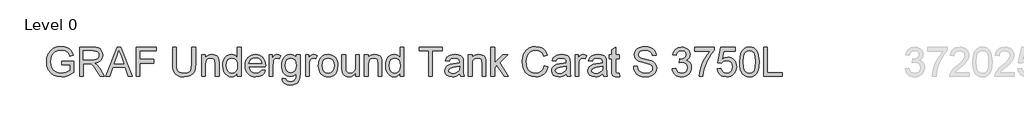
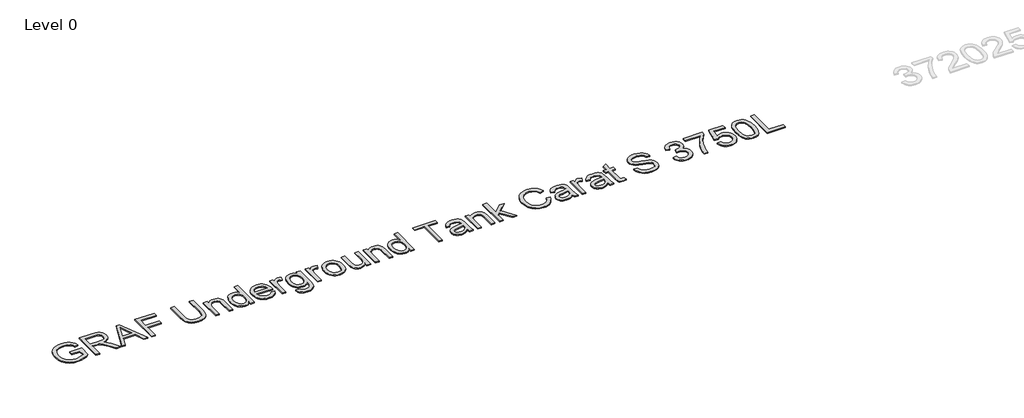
# One storey, part 16 of 20: 1 proxy.
"""IFC4 building model written with IfcOpenShell, lengths in millimetres."""

from ifc_helpers import new_model, si_unit, origin, origin_with_axes, place, context, project, spatial, polyline, outline, extrude, element, save

model = new_model("IFC4")

# Units and contexts
model_context = context("Model", 3, world=origin())
ifc_project = project(units=[si_unit("LENGTHUNIT", "METRE", prefix="MILLI")], contexts=[model_context])

# Site, building, storey
site = spatial("IfcSite", under=ifc_project)
building = spatial("IfcBuilding", under=site)
storey = spatial("IfcBuildingStorey", under=building, Name="Level 0", Elevation=0.0)

# Proxy
placement = place(None, origin())
element("IfcBuildingElementProxy", 1, Name="300mm Arial", ObjectType="300mm Arial", at=placement, inside=storey, context=model_context, shape_type="SweptSolid", body=[
    extrude(outline(polyline([(-14980.9940387, 5416.7454403), (-14980.9940387, 5454.4165566), (-14858.5629107, 5454.4165566), (-14858.5629107, 5341.7710897), (-14888.3153671, 5321.0777274), (-14919.0059225, 5306.2336889), (-14950.5610007, 5297.2941564), (-14982.9070251, 5294.3143123), (-15025.1674693, 5299.050793), (-15063.3628175, 5313.260235), (-15095.0926395, 5336.4459978), (-15117.9565055, 5368.1114405), (-15131.7796715, 5406.0952565), (-15136.3873935, 5448.2361391), (-15131.7980656, 5490.6805243), (-15118.0300819, 5530.1634594), (-15095.6536596, 5563.282036), (-15065.2390156, 5586.6333457), (-15028.1932987, 5600.4841028), (-14985.9236575, 5605.1010218), (-14954.8928112, 5602.4246803), (-14926.9889618, 5594.3956557), (-14903.4904994, 5581.5933623), (-14885.6758138, 5564.5972141), (-14872.4964413, 5542.5886738), (-14862.9039183, 5514.7492038), (-14897.6319786, 5504.9635427), (-14905.3850917, 5524.8199734), (-14914.8120678, 5539.8019677), (-14927.2832674, 5551.0959449), (-14944.169051, 5559.8883246), (-14964.3013932, 5565.5445103), (-14986.5122687, 5567.4299055), (-15012.5123287, 5565.3973575), (-15034.7415982, 5559.2997134), (-15053.1173039, 5549.9003284), (-15067.5566722, 5537.9625577), (-15086.9440533, 5508.9366683), (-15095.7732212, 5480.49939), (-15098.7162772, 5449.7812434), (-15095.175413, 5413.7563991), (-15084.5528204, 5384.1143073), (-15067.1703961, 5361.0665003), (-15043.3500369, 5344.8245102), (-15015.4737787, 5335.195199), (-14985.9236575, 5331.9854286), (-14959.831627, 5334.4042527), (-14934.3833899, 5341.6607251), (-14912.2828791, 5351.6579183), (-14896.234027, 5362.298905), (-14896.234027, 5416.7454403), (-14980.9940387, 5416.7454403)])), origin_with_axes(), (0.0, 0.0, 1.0), 10.0),
    extrude(outline(polyline([(-14797.3473467, 5299.0232018), (-14797.3473467, 5600.3921323), (-14667.4850024, 5600.3921323), (-14632.5821982, 5598.3595842), (-14607.1891434, 5592.2619402), (-14588.6294968, 5581.0047511), (-14574.2269167, 5563.4935682), (-14564.9838815, 5541.7793334), (-14561.9028698, 5517.912989), (-14567.0072325, 5488.2249119), (-14582.3203206, 5463.6136065), (-14593.9200997, 5453.5842236), (-14608.3019865, 5445.5689946), (-14645.4120827, 5435.5809984), (-14624.0013506, 5419.467767), (-14593.467145, 5380.6930048), (-14543.2144645, 5299.0232018), (-14586.9924219, 5299.0232018), (-14626.2086426, 5361.4895646), (-14654.5355562, 5402.8395009), (-14674.4379722, 5422.3740348), (-14692.3538253, 5429.5477337), (-14714.2060158, 5430.8721089), (-14759.6762304, 5430.8721089), (-14759.6762304, 5299.0232018), (-14797.3473467, 5299.0232018)]), holes=[polyline([(-14759.6762304, 5468.5432252), (-14675.3576771, 5468.5432252), (-14651.1418448, 5469.8767974), (-14632.3522719, 5473.8775141), (-14618.2072092, 5480.8120897), (-14607.9249074, 5490.9472387), (-14601.6617165, 5503.2069062), (-14599.5739861, 5516.5150374), (-14603.5563087, 5534.890743), (-14615.5032765, 5549.6979933), (-14636.058683, 5559.4652603), (-14665.8663217, 5562.721016), (-14759.6762304, 5562.721016), (-14759.6762304, 5468.5432252)])]), origin_with_axes(), (0.0, 0.0, 1.0), 10.0),
    extrude(outline(polyline([(-14531.0743586, 5299.0232018), (-14410.7769462, 5600.3921323), (-14378.6976362, 5600.3921323), (-14258.4002238, 5299.0232018), (-14298.2050557, 5299.0232018), (-14332.7123868, 5393.2009926), (-14456.835772, 5393.2009926), (-14491.2695268, 5299.0232018), (-14531.0743586, 5299.0232018)]), holes=[polyline([(-14443.003409, 5430.8721089), (-14346.4711735, 5430.8721089), (-14373.6208647, 5504.9635427), (-14394.7372912, 5562.721016), (-14413.499273, 5511.4382658), (-14443.003409, 5430.8721089)])]), origin_with_axes(), (0.0, 0.0, 1.0), 10.0),
    extrude(outline(polyline([(-14218.1539335, 5299.0232018), (-14218.1539335, 5600.3921323), (-14015.6716834, 5600.3921323), (-14015.6716834, 5562.721016), (-14180.4828172, 5562.721016), (-14180.4828172, 5473.2521147), (-14039.2161311, 5473.2521147), (-14039.2161311, 5435.5809984), (-14180.4828172, 5435.5809984), (-14180.4828172, 5299.0232018), (-14218.1539335, 5299.0232018)])), origin_with_axes(), (0.0, 0.0, 1.0), 10.0),
    extrude(outline(polyline([(-13648.3782994, 5600.3921323), (-13610.7071831, 5600.3921323), (-13610.7071831, 5426.5311014), (-13613.263963, 5385.8157615), (-13620.9343026, 5354.4630185), (-13635.2633063, 5330.2747773), (-13657.7960785, 5311.0529431), (-13688.5878015, 5298.49897), (-13727.6936576, 5294.3143123), (-13765.944188, 5297.956344), (-13796.5243789, 5308.8824393), (-13819.4434272, 5326.715519), (-13834.71053, 5351.0785041), (-13843.2913775, 5383.7556224), (-13846.15166, 5426.5311014), (-13846.15166, 5600.3921323), (-13808.4805437, 5600.3921323), (-13808.4805437, 5427.8554765), (-13806.6227396, 5394.0011359), (-13801.0493274, 5370.4290971), (-13790.9509666, 5354.1043335), (-13775.5183169, 5341.9918189), (-13755.3951718, 5334.4870262), (-13731.2253247, 5331.9854286), (-13692.9104149, 5336.9334414), (-13678.5676156, 5343.1184575), (-13667.4345868, 5351.7774799), (-13659.097461, 5363.954374), (-13653.1423712, 5380.6930048), (-13648.3782994, 5427.8554765), (-13648.3782994, 5600.3921323)])), origin_with_axes(), (0.0, 0.0, 1.0), 10.0),
    extrude(outline(polyline([(-13549.4916191, 5299.0232018), (-13549.4916191, 5520.3410101), (-13511.8205028, 5520.3410101), (-13511.8205028, 5489.4389225), (-13498.7331008, 5505.018725), (-13483.0153426, 5516.1471554), (-13464.6672281, 5522.8242136), (-13443.6887573, 5525.0498997), (-13425.1199136, 5523.2564749), (-13408.1145684, 5517.8762008), (-13393.9327174, 5509.5804618), (-13383.8343567, 5499.0406426), (-13372.5403794, 5471.3391284), (-13370.5538166, 5434.9188108), (-13370.5538166, 5299.0232018), (-13408.224933, 5299.0232018), (-13408.224933, 5429.8420393), (-13412.5659405, 5463.1721481), (-13418.5716141, 5473.0957649), (-13427.9066197, 5480.7936956), (-13439.8719816, 5485.7325114), (-13453.768724, 5487.3787834), (-13475.8324466, 5483.6815693), (-13494.6404136, 5472.5899271), (-13502.1567026, 5463.5354315), (-13507.5254805, 5451.1608009), (-13511.8205028, 5416.4511347), (-13511.8205028, 5299.0232018), (-13549.4916191, 5299.0232018)])), origin_with_axes(), (0.0, 0.0, 1.0), 10.0),
    extrude(outline(polyline([(-13182.1982351, 5299.0232018), (-13182.1982351, 5334.5606026), (-13193.4692197, 5316.9528506), (-13207.1222403, 5304.3758849), (-13223.1572968, 5296.8297054), (-13241.5743891, 5294.3143123), (-13265.9281772, 5297.956344), (-13288.2218261, 5308.8824393), (-13307.0941725, 5326.3292429), (-13321.1840529, 5349.5333998), (-13329.9580385, 5377.5568107), (-13332.8827003, 5409.4613768), (-13330.1879647, 5440.9704697), (-13322.1037579, 5469.426142), (-13308.6392769, 5493.209713), (-13289.8037187, 5510.7025018), (-13267.0226262, 5521.4630502), (-13241.7215419, 5525.0498997), (-13223.290654, 5522.4839227), (-13206.9934816, 5514.785992), (-13193.1795127, 5502.986177), (-13182.1982351, 5488.1145473), (-13182.1982351, 5600.3921323), (-13144.5271188, 5600.3921323), (-13144.5271188, 5299.0232018), (-13182.1982351, 5299.0232018)]), holes=[polyline([(-13295.211584, 5409.6085296), (-13290.962547, 5375.5334598), (-13278.2154359, 5351.2992333), (-13259.6925774, 5336.8138798), (-13238.1162984, 5331.9854286), (-13216.5492164, 5336.5931506), (-13198.4954075, 5350.4163165), (-13186.2725282, 5373.7124439), (-13182.1982351, 5406.73905), (-13186.3461046, 5442.8466678), (-13198.7897131, 5467.8810376), (-13217.3033745, 5482.5043469), (-13239.6614028, 5487.3787834), (-13261.458411, 5482.697485), (-13279.3190818, 5468.6535898), (-13291.2384585, 5444.529728), (-13295.211584, 5409.6085296)])]), origin_with_axes(), (0.0, 0.0, 1.0), 10.0),
    extrude(outline(polyline([(-12933.068548, 5364.9476554), (-12896.1331957, 5360.2387658), (-12909.4413268, 5332.4084929), (-12930.677315, 5311.6047661), (-12959.3629136, 5298.6369257), (-12995.019876, 5294.3143123), (-13018.3941782, 5296.1790141), (-13039.2208977, 5301.7731197), (-13057.5000343, 5311.0966291), (-13073.2315881, 5324.1495421), (-13085.8821303, 5340.5685754), (-13094.9182318, 5359.9904455), (-13100.3398927, 5382.4151523), (-13102.147113, 5407.842696), (-13100.3214986, 5434.1324631), (-13094.8446554, 5457.3044302), (-13085.7165834, 5477.3585975), (-13072.9372826, 5494.2949649), (-13057.2471155, 5507.7502488), (-13039.3864446, 5517.361166), (-13019.35527, 5523.1277162), (-12997.1535915, 5525.0498997), (-12975.6669838, 5523.1323148), (-12956.2359166, 5517.3795601), (-12938.8603901, 5507.7916356), (-12923.5404043, 5494.3685413), (-12911.0347157, 5477.4689621), (-12902.102081, 5457.451583), (-12896.7425002, 5434.3164041), (-12894.9559733, 5408.0634252), (-12895.1767025, 5397.9098821), (-13064.4759967, 5397.9098821), (-13057.9552883, 5369.7117272), (-13042.8077471, 5348.9815768), (-13020.9463596, 5336.2344656), (-12994.284112, 5331.9854286), (-12974.2345432, 5333.9535973), (-12957.3487597, 5339.8581033), (-12943.6267612, 5350.0668287), (-12933.068548, 5364.9476554)]), holes=[polyline([(-13064.4759967, 5435.5809984), (-12932.6270896, 5435.5809984), (-12937.7222552, 5455.4834144), (-12947.7102514, 5469.7204476), (-12969.6728065, 5482.9641994), (-12997.3007443, 5487.3787834), (-13022.6937991, 5483.8563132), (-13043.6906639, 5473.2889029), (-13058.2863821, 5456.8169866), (-13064.4759967, 5435.5809984)])]), origin_with_axes(), (0.0, 0.0, 1.0), 10.0),
    extrude(outline(polyline([(-12857.284857, 5299.0232018), (-12857.284857, 5520.3410101), (-12824.3226302, 5520.3410101), (-12824.3226302, 5487.5995125), (-12812.1457362, 5506.5822235), (-12800.9253353, 5517.7658362), (-12789.6681463, 5523.2288838), (-12777.3808876, 5525.0498997), (-12758.6189059, 5522.1436319), (-12739.5626185, 5513.4248286), (-12752.1441828, 5479.6532615), (-12765.3879346, 5485.4474029), (-12778.6316864, 5487.3787834), (-12789.8796784, 5485.5209793), (-12799.9320539, 5479.947567), (-12808.053049, 5471.081611), (-12813.5068996, 5459.3461753), (-12818.0870304, 5438.3033252), (-12819.6137407, 5415.3474887), (-12819.6137407, 5299.0232018), (-12857.284857, 5299.0232018)])), origin_with_axes(), (0.0, 0.0, 1.0), 10.0),
    extrude(outline(polyline([(-12725.4359499, 5280.1876437), (-12687.7648336, 5275.4787541), (-12683.6077671, 5263.7065303), (-12675.5511514, 5255.6131264), (-12659.7138315, 5249.3223443), (-12638.983681, 5247.2254169), (-12616.8739731, 5249.5982558), (-12600.4296479, 5256.7167724), (-12589.0253061, 5268.1211142), (-12582.0355482, 5283.3514288), (-12579.4603742, 5327.2765391), (-12591.9959532, 5314.915704), (-12605.9846661, 5306.0865361), (-12621.4265128, 5300.7890354), (-12638.3214935, 5299.0232018), (-12658.9757682, 5301.0787425), (-12677.1606351, 5307.2453644), (-12692.8760941, 5317.5230677), (-12706.1221452, 5331.9118522), (-12716.6320739, 5349.1747148), (-12724.1391659, 5368.0746523), (-12728.6434211, 5388.6116647), (-12730.1448394, 5410.785752), (-12727.4501038, 5441.2003959), (-12719.365897, 5469.1686246), (-12706.1773275, 5492.8694221), (-12688.1695038, 5510.4817726), (-12665.9586283, 5521.4078679), (-12640.1609034, 5525.0498997), (-12622.5439544, 5522.9897605), (-12606.5548832, 5516.809343), (-12592.1936898, 5506.5086471), (-12579.4603742, 5492.0876729), (-12579.4603742, 5520.3410101), (-12541.7892579, 5520.3410101), (-12541.7892579, 5329.2631018), (-12544.3644319, 5285.1448536), (-12552.0899538, 5256.091373), (-12565.398085, 5236.8235535), (-12584.7210868, 5222.0622884), (-12609.6358949, 5212.6812976), (-12639.719445, 5209.5543006), (-12674.7694021, 5213.9596875), (-12702.3697488, 5227.1758482), (-12712.7647144, 5237.0971657), (-12720.0740698, 5249.2395708), (-12724.297815, 5263.6030635), (-12725.4359499, 5280.1876437)]), holes=[polyline([(-12692.4737231, 5413.3609259), (-12688.4546123, 5378.8076095), (-12676.39728, 5355.0516297), (-12658.2698946, 5341.283646), (-12636.0406251, 5336.6943181), (-12613.9769024, 5341.2560549), (-12595.7575466, 5354.9412651), (-12583.5346673, 5378.3937423), (-12579.4603742, 5412.2572799), (-12583.654229, 5444.9160041), (-12596.2357932, 5468.4328606), (-12614.7218635, 5482.6423027), (-12636.6292363, 5487.3787834), (-12658.1411359, 5482.7158791), (-12676.1765508, 5468.7271662), (-12688.39943, 5445.5597976), (-12692.4737231, 5413.3609259)])]), origin_with_axes(), (0.0, 0.0, 1.0), 10.0),
    extrude(outline(polyline([(-12485.2825835, 5299.0232018), (-12485.2825835, 5520.3410101), (-12452.3203567, 5520.3410101), (-12452.3203567, 5487.5995125), (-12440.1434626, 5506.5822235), (-12428.9230618, 5517.7658362), (-12417.6658727, 5523.2288838), (-12405.3786141, 5525.0498997), (-12386.6166324, 5522.1436319), (-12367.560345, 5513.4248286), (-12380.1419092, 5479.6532615), (-12393.3856611, 5485.4474029), (-12406.6294129, 5487.3787834), (-12417.8774049, 5485.5209793), (-12427.9297804, 5479.947567), (-12436.0507755, 5471.081611), (-12441.504626, 5459.3461753), (-12446.0847569, 5438.3033252), (-12447.6114672, 5415.3474887), (-12447.6114672, 5299.0232018), (-12485.2825835, 5299.0232018)])), origin_with_axes(), (0.0, 0.0, 1.0), 10.0),
    extrude(outline(polyline([(-12353.4336764, 5409.682106), (-12351.3965298, 5438.3447119), (-12345.2850902, 5463.0433894), (-12335.0993575, 5483.7781383), (-12320.8393316, 5500.5489588), (-12306.4827368, 5511.2681204), (-12290.6362198, 5518.9246644), (-12273.2997808, 5523.5185909), (-12254.4734197, 5525.0498997), (-12233.6903862, 5523.1851978), (-12214.8985141, 5517.5910922), (-12198.0978032, 5508.2675829), (-12183.2882536, 5495.2146698), (-12171.2010308, 5478.8738115), (-12162.5673002, 5459.6864662), (-12157.3870619, 5437.6526339), (-12155.6603158, 5412.7723147), (-12158.7137363, 5374.7149223), (-12167.873998, 5345.7442152), (-12182.8743864, 5324.0483745), (-12203.448187, 5307.8155815), (-12227.8847485, 5297.6896296), (-12254.4734197, 5294.3143123), (-12275.5599558, 5296.1721164), (-12294.5265719, 5301.7455286), (-12311.373268, 5311.034549), (-12326.1000441, 5324.0391775), (-12338.0585082, 5340.538685), (-12346.6002683, 5360.3123422), (-12351.7253244, 5383.3601492), (-12353.4336764, 5409.682106)]), holes=[polyline([(-12315.7625601, 5409.7556824), (-12311.4031584, 5375.6622185), (-12298.3249535, 5351.3728097), (-12278.6432668, 5336.8322739), (-12254.4734197, 5331.9854286), (-12230.4139372, 5336.859865), (-12210.7690387, 5351.4831743), (-12197.6908337, 5376.0944798), (-12193.3314321, 5410.9329048), (-12197.7184249, 5444.0330873), (-12210.8794033, 5467.9914022), (-12230.5518929, 5482.5319381), (-12254.4734197, 5487.3787834), (-12278.6432668, 5482.5503322), (-12298.3249535, 5468.0649786), (-12311.4031584, 5443.8307522), (-12315.7625601, 5409.7556824)])]), origin_with_axes(), (0.0, 0.0, 1.0), 10.0),
    extrude(outline(polyline([(-11972.0136238, 5299.0232018), (-11972.0136238, 5337.0622001), (-11985.6436517, 5318.3599992), (-12001.5177598, 5305.0012842), (-12019.6359481, 5296.9860553), (-12039.9982165, 5294.3143123), (-12058.346331, 5296.1905105), (-12075.4252526, 5301.819105), (-12089.7542563, 5310.2803909), (-12099.8526171, 5320.6546631), (-12111.073018, 5348.3929656), (-12113.2803099, 5383.4153315), (-12113.2803099, 5520.3410101), (-12075.6091936, 5520.3410101), (-12075.6091936, 5401.1472437), (-12073.3283253, 5362.7403634), (-12067.8376865, 5349.9288729), (-12058.4291045, 5340.1891971), (-12045.7279786, 5334.0363707), (-12030.3597082, 5331.9854286), (-12014.1085211, 5334.082356), (-11998.9057976, 5340.3731381), (-11986.3702186, 5350.2783608), (-11978.1204649, 5363.21861), (-11973.5403341, 5380.9413251), (-11972.0136238, 5405.1939456), (-11972.0136238, 5520.3410101), (-11934.3425075, 5520.3410101), (-11934.3425075, 5299.0232018), (-11972.0136238, 5299.0232018)])), origin_with_axes(), (0.0, 0.0, 1.0), 10.0),
    extrude(outline(polyline([(-11882.5447226, 5299.0232018), (-11882.5447226, 5520.3410101), (-11844.8736063, 5520.3410101), (-11844.8736063, 5489.4389225), (-11831.7862043, 5505.018725), (-11816.068446, 5516.1471554), (-11797.7203315, 5522.8242136), (-11776.7418607, 5525.0498997), (-11758.173017, 5523.2564749), (-11741.1676718, 5517.8762008), (-11726.9858209, 5509.5804618), (-11716.8874601, 5499.0406426), (-11705.5934829, 5471.3391284), (-11703.6069201, 5434.9188108), (-11703.6069201, 5299.0232018), (-11741.2780364, 5299.0232018), (-11741.2780364, 5429.8420393), (-11745.619044, 5463.1721481), (-11751.6247175, 5473.0957649), (-11760.9597232, 5480.7936956), (-11772.925085, 5485.7325114), (-11786.8218274, 5487.3787834), (-11808.8855501, 5483.6815693), (-11827.6935171, 5472.5899271), (-11835.2098061, 5463.5354315), (-11840.578584, 5451.1608009), (-11844.8736063, 5416.4511347), (-11844.8736063, 5299.0232018), (-11882.5447226, 5299.0232018)])), origin_with_axes(), (0.0, 0.0, 1.0), 10.0),
    extrude(outline(polyline([(-11515.2513386, 5299.0232018), (-11515.2513386, 5334.5606026), (-11526.5223232, 5316.9528506), (-11540.1753437, 5304.3758849), (-11556.2104002, 5296.8297054), (-11574.6274926, 5294.3143123), (-11598.9812807, 5297.956344), (-11621.2749296, 5308.8824393), (-11640.1472759, 5326.3292429), (-11654.2371564, 5349.5333998), (-11663.0111419, 5377.5568107), (-11665.9358038, 5409.4613768), (-11663.2410682, 5440.9704697), (-11655.1568613, 5469.426142), (-11641.6923803, 5493.209713), (-11622.8568222, 5510.7025018), (-11600.0757296, 5521.4630502), (-11574.7746454, 5525.0498997), (-11556.3437574, 5522.4839227), (-11540.046585, 5514.785992), (-11526.2326161, 5502.986177), (-11515.2513386, 5488.1145473), (-11515.2513386, 5600.3921323), (-11477.5802223, 5600.3921323), (-11477.5802223, 5299.0232018), (-11515.2513386, 5299.0232018)]), holes=[polyline([(-11628.2646875, 5409.6085296), (-11624.0156504, 5375.5334598), (-11611.2685393, 5351.2992333), (-11592.7456809, 5336.8138798), (-11571.1694018, 5331.9854286), (-11549.6023199, 5336.5931506), (-11531.548511, 5350.4163165), (-11519.3256317, 5373.7124439), (-11515.2513386, 5406.73905), (-11519.3992081, 5442.8466678), (-11531.8428166, 5467.8810376), (-11550.356478, 5482.5043469), (-11572.7145062, 5487.3787834), (-11594.5115144, 5482.697485), (-11612.3721853, 5468.6535898), (-11624.2915619, 5444.529728), (-11628.2646875, 5409.6085296)])]), origin_with_axes(), (0.0, 0.0, 1.0), 10.0),
    extrude(outline(polyline([(-11223.3001872, 5299.0232018), (-11223.3001872, 5562.721016), (-11322.1868675, 5562.721016), (-11322.1868675, 5600.3921323), (-11086.7423906, 5600.3921323), (-11086.7423906, 5562.721016), (-11185.6290709, 5562.721016), (-11185.6290709, 5299.0232018), (-11223.3001872, 5299.0232018)])), origin_with_axes(), (0.0, 0.0, 1.0), 10.0),
    extrude(outline(polyline([(-10907.8045881, 5327.2765391), (-10925.8032148, 5311.8438894), (-10944.3352703, 5301.7455286), (-10963.823819, 5296.1721164), (-10984.6919251, 5294.3143123), (-11016.1734269, 5298.7840785), (-11039.3959778, 5312.1933772), (-11053.7157845, 5332.5556457), (-11058.4890534, 5357.8843211), (-11056.6864316, 5373.5009117), (-11051.2785663, 5387.6827627), (-11042.936842, 5399.8228685), (-11032.3326435, 5409.314224), (-11005.9555045, 5421.675059), (-10973.3611597, 5427.3404417), (-10934.8439148, 5433.3001301), (-10908.0253173, 5440.289888), (-10907.8045881, 5448.6775975), (-10910.3981562, 5465.4898046), (-10918.1788604, 5476.4894763), (-10935.5796788, 5484.6564566), (-10959.8231023, 5487.3787834), (-10982.263904, 5485.5669645), (-10997.935677, 5480.131508), (-11008.6226489, 5470.0791325), (-11016.1090475, 5454.4165566), (-11053.7801638, 5459.1254461), (-11047.2410614, 5479.7268379), (-11037.4829914, 5495.9136456), (-11023.5954461, 5508.2928748), (-11004.6679175, 5517.4715306), (-10981.5189429, 5523.1553074), (-10954.9670599, 5525.0498997), (-10929.5004288, 5523.3760366), (-10909.3129043, 5518.3544473), (-10894.0917868, 5510.8036694), (-10883.5243765, 5501.5422402), (-10876.5162244, 5490.0919131), (-10871.9728818, 5475.9744415), (-10870.1334718, 5443.0122147), (-10870.1334718, 5396.1440485), (-10868.2204855, 5330.6978416), (-10860.7156928, 5299.0232018), (-10898.3868091, 5299.0232018), (-10907.8045881, 5327.2765391)]), holes=[polyline([(-10907.8045881, 5402.6187717), (-10968.5786937, 5391.067277), (-11000.9890975, 5384.9604359), (-11015.6675891, 5375.027622), (-11020.8179371, 5360.5330714), (-11018.0128368, 5349.3310647), (-11009.5975362, 5340.1524089), (-10995.7559761, 5334.0271737), (-10976.6720976, 5331.9854286), (-10956.4385879, 5334.2387058), (-10938.5595229, 5340.9985375), (-10924.0649723, 5350.9589425), (-10913.9850057, 5362.8139398), (-10909.5152394, 5375.027622), (-10908.0253173, 5391.9501938), (-10907.8045881, 5402.6187717)])]), origin_with_axes(), (0.0, 0.0, 1.0), 10.0),
    extrude(outline(polyline([(-10818.3356869, 5299.0232018), (-10818.3356869, 5520.3410101), (-10780.6645706, 5520.3410101), (-10780.6645706, 5489.4389225), (-10767.5771686, 5505.018725), (-10751.8594104, 5516.1471554), (-10733.5112959, 5522.8242136), (-10712.5328251, 5525.0498997), (-10693.9639814, 5523.2564749), (-10676.9586362, 5517.8762008), (-10662.7767853, 5509.5804618), (-10652.6784245, 5499.0406426), (-10641.3844472, 5471.3391284), (-10639.3978845, 5434.9188108), (-10639.3978845, 5299.0232018), (-10677.0690008, 5299.0232018), (-10677.0690008, 5429.8420393), (-10681.4100083, 5463.1721481), (-10687.4156819, 5473.0957649), (-10696.7506875, 5480.7936956), (-10708.7160494, 5485.7325114), (-10722.6127918, 5487.3787834), (-10744.6765144, 5483.6815693), (-10763.4844814, 5472.5899271), (-10771.0007704, 5463.5354315), (-10776.3695483, 5451.1608009), (-10780.6645706, 5416.4511347), (-10780.6645706, 5299.0232018), (-10818.3356869, 5299.0232018)])), origin_with_axes(), (0.0, 0.0, 1.0), 10.0),
    extrude(outline(polyline([(-10587.6000995, 5299.0232018), (-10587.6000995, 5600.3921323), (-10549.9289832, 5600.3921323), (-10549.9289832, 5438.450478), (-10465.4632771, 5520.3410101), (-10413.3711866, 5520.3410101), (-10498.8669623, 5437.4204084), (-10408.6622971, 5299.0232018), (-10452.6609837, 5299.0232018), (-10525.8695007, 5411.2272104), (-10549.9289832, 5387.9034919), (-10549.9289832, 5299.0232018), (-10587.6000995, 5299.0232018)])), origin_with_axes(), (0.0, 0.0, 1.0), 10.0),
    extrude(outline(polyline([(-10041.3689131, 5406.1504388), (-10003.6977968, 5396.4383541), (-10011.1520057, 5373.0111688), (-10021.0802211, 5352.5408351), (-10033.4824428, 5335.0273528), (-10048.358671, 5320.4707221), (-10065.3732133, 5309.0272928), (-10084.1903773, 5300.8534147), (-10104.8101632, 5295.9490879), (-10127.2325708, 5294.3143123), (-10170.9277547, 5299.2623251), (-10205.6282239, 5314.1063636), (-10232.2260922, 5338.331393), (-10251.6134733, 5371.4223785), (-10263.4500765, 5410.3258995), (-10267.3956109, 5451.9885354), (-10262.9350417, 5495.9320397), (-10249.5533342, 5533.8790675), (-10227.949464, 5564.6248053), (-10198.822407, 5586.9644394), (-10164.2782877, 5600.5668762), (-10126.4232304, 5605.1010218), (-10085.1192794, 5599.233304), (-10067.1505432, 5591.8986567), (-10050.9706332, 5581.6301505), (-10036.8462638, 5568.6990984), (-10025.0441496, 5553.3768133), (-10008.4066863, 5515.5585442), (-10046.0778026, 5506.5822235), (-10059.1376135, 5534.0538115), (-10076.9798902, 5552.8985667), (-10099.8253621, 5563.7970708), (-10127.8947584, 5567.4299055), (-10160.2499798, 5563.4015977), (-10186.829454, 5551.3166741), (-10206.9985844, 5532.4443278), (-10220.1227746, 5508.0537515), (-10227.3240646, 5480.4809959), (-10229.7244946, 5452.0621118), (-10226.8826062, 5417.2604751), (-10218.356941, 5387.1677279), (-10203.8256022, 5362.9335014), (-10182.966693, 5345.707427), (-10157.9599144, 5335.4159282), (-10130.9849671, 5331.9854286), (-10099.5402536, 5336.6575299), (-10073.3378585, 5350.6738339), (-10053.5550042, 5373.8871878), (-10041.3689131, 5406.1504388)])), origin_with_axes(), (0.0, 0.0, 1.0), 10.0),
    extrude(outline(polyline([(-9815.3422153, 5327.2765391), (-9833.3408419, 5311.8438894), (-9851.8728974, 5301.7455286), (-9871.3614461, 5296.1721164), (-9892.2295523, 5294.3143123), (-9923.711054, 5298.7840785), (-9946.9336049, 5312.1933772), (-9961.2534116, 5332.5556457), (-9966.0266805, 5357.8843211), (-9964.2240587, 5373.5009117), (-9958.8161934, 5387.6827627), (-9950.4744691, 5399.8228685), (-9939.8702706, 5409.314224), (-9913.4931316, 5421.675059), (-9880.8987868, 5427.3404417), (-9842.3815419, 5433.3001301), (-9815.5629445, 5440.289888), (-9815.3422153, 5448.6775975), (-9817.9357833, 5465.4898046), (-9825.7164875, 5476.4894763), (-9843.1173059, 5484.6564566), (-9867.3607294, 5487.3787834), (-9889.8015311, 5485.5669645), (-9905.4733041, 5480.131508), (-9916.160276, 5470.0791325), (-9923.6466746, 5454.4165566), (-9961.3177909, 5459.1254461), (-9954.7786885, 5479.7268379), (-9945.0206186, 5495.9136456), (-9931.1330732, 5508.2928748), (-9912.2055446, 5517.4715306), (-9889.05657, 5523.1553074), (-9862.504687, 5525.0498997), (-9837.0380559, 5523.3760366), (-9816.8505314, 5518.3544473), (-9801.6294139, 5510.8036694), (-9791.0620036, 5501.5422402), (-9784.0538516, 5490.0919131), (-9779.5105089, 5475.9744415), (-9777.671099, 5443.0122147), (-9777.671099, 5396.1440485), (-9775.7581126, 5330.6978416), (-9768.2533199, 5299.0232018), (-9805.9244362, 5299.0232018), (-9815.3422153, 5327.2765391)]), holes=[polyline([(-9815.3422153, 5402.6187717), (-9876.1163209, 5391.067277), (-9908.5267246, 5384.9604359), (-9923.2052162, 5375.027622), (-9928.3555642, 5360.5330714), (-9925.550464, 5349.3310647), (-9917.1351633, 5340.1524089), (-9903.2936033, 5334.0271737), (-9884.2097248, 5331.9854286), (-9863.976215, 5334.2387058), (-9846.0971501, 5340.9985375), (-9831.6025994, 5350.9589425), (-9821.5226328, 5362.8139398), (-9817.0528665, 5375.027622), (-9815.5629445, 5391.9501938), (-9815.3422153, 5402.6187717)])]), origin_with_axes(), (0.0, 0.0, 1.0), 10.0),
    extrude(outline(polyline([(-9725.873314, 5299.0232018), (-9725.873314, 5520.3410101), (-9692.9110873, 5520.3410101), (-9692.9110873, 5487.5995125), (-9680.7341932, 5506.5822235), (-9669.5137924, 5517.7658362), (-9658.2566033, 5523.2288838), (-9645.9693447, 5525.0498997), (-9627.2073629, 5522.1436319), (-9608.1510756, 5513.4248286), (-9620.7326398, 5479.6532615), (-9633.9763916, 5485.4474029), (-9647.2201435, 5487.3787834), (-9658.4681355, 5485.5209793), (-9668.520511, 5479.947567), (-9676.641506, 5471.081611), (-9682.0953566, 5459.3461753), (-9686.6754874, 5438.3033252), (-9688.2021977, 5415.3474887), (-9688.2021977, 5299.0232018), (-9725.873314, 5299.0232018)])), origin_with_axes(), (0.0, 0.0, 1.0), 10.0),
    extrude(outline(polyline([(-9443.3399417, 5327.2765391), (-9461.3385684, 5311.8438894), (-9479.8706239, 5301.7455286), (-9499.3591726, 5296.1721164), (-9520.2272787, 5294.3143123), (-9551.7087805, 5298.7840785), (-9574.9313314, 5312.1933772), (-9589.2511381, 5332.5556457), (-9594.024407, 5357.8843211), (-9592.2217852, 5373.5009117), (-9586.8139199, 5387.6827627), (-9578.4721956, 5399.8228685), (-9567.8679971, 5409.314224), (-9541.4908581, 5421.675059), (-9508.8965133, 5427.3404417), (-9470.3792684, 5433.3001301), (-9443.5606709, 5440.289888), (-9443.3399417, 5448.6775975), (-9445.9335098, 5465.4898046), (-9453.714214, 5476.4894763), (-9471.1150324, 5484.6564566), (-9495.3584559, 5487.3787834), (-9517.7992576, 5485.5669645), (-9533.4710306, 5480.131508), (-9544.1580025, 5470.0791325), (-9551.6444011, 5454.4165566), (-9589.3155174, 5459.1254461), (-9582.776415, 5479.7268379), (-9573.018345, 5495.9136456), (-9559.1307997, 5508.2928748), (-9540.2032711, 5517.4715306), (-9517.0542965, 5523.1553074), (-9490.5024135, 5525.0498997), (-9465.0357824, 5523.3760366), (-9444.8482579, 5518.3544473), (-9429.6271404, 5510.8036694), (-9419.0597301, 5501.5422402), (-9412.051578, 5490.0919131), (-9407.5082354, 5475.9744415), (-9405.6688254, 5443.0122147), (-9405.6688254, 5396.1440485), (-9403.7558391, 5330.6978416), (-9396.2510464, 5299.0232018), (-9433.9221627, 5299.0232018), (-9443.3399417, 5327.2765391)]), holes=[polyline([(-9443.3399417, 5402.6187717), (-9504.1140473, 5391.067277), (-9536.5244511, 5384.9604359), (-9551.2029427, 5375.027622), (-9556.3532907, 5360.5330714), (-9553.5481904, 5349.3310647), (-9545.1328898, 5340.1524089), (-9531.2913297, 5334.0271737), (-9512.2074512, 5331.9854286), (-9491.9739415, 5334.2387058), (-9474.0948765, 5340.9985375), (-9459.6003259, 5350.9589425), (-9449.5203593, 5362.8139398), (-9445.050593, 5375.027622), (-9443.5606709, 5391.9501938), (-9443.3399417, 5402.6187717)])]), origin_with_axes(), (0.0, 0.0, 1.0), 10.0),
    extrude(outline(polyline([(-9273.8199184, 5330.4403242), (-9269.1110288, 5297.9195558), (-9297.2907897, 5294.3143123), (-9315.3721897, 5295.8778108), (-9328.8550648, 5300.5683062), (-9338.3832085, 5307.7971874), (-9344.6004142, 5316.9758432), (-9348.0217168, 5332.7395867), (-9349.162151, 5359.723731), (-9349.162151, 5482.6698938), (-9377.4154882, 5482.6698938), (-9377.4154882, 5520.3410101), (-9349.162151, 5520.3410101), (-9349.162151, 5574.1253578), (-9311.4910347, 5596.2718539), (-9311.4910347, 5520.3410101), (-9273.8199184, 5520.3410101), (-9273.8199184, 5482.6698938), (-9311.4910347, 5482.6698938), (-9311.4910347, 5360.827377), (-9309.5044719, 5341.4032077), (-9303.066537, 5334.5238144), (-9290.2274553, 5331.9854286), (-9273.8199184, 5330.4403242)])), origin_with_axes(), (0.0, 0.0, 1.0), 10.0),
    extrude(outline(polyline([(-9127.8443427, 5402.6187717), (-9090.1732264, 5402.6187717), (-9085.8506129, 5381.7138773), (-9078.0331205, 5364.9108672), (-9065.8378324, 5351.5751448), (-9048.3818317, 5341.0721139), (-9027.044676, 5334.2570999), (-9003.2059227, 5331.9854286), (-8982.2182549, 5333.7052769), (-8963.8425492, 5338.8648219), (-8948.9525255, 5347.0318022), (-8938.4219034, 5357.7739565), (-8932.1587124, 5370.1072003), (-8930.0709821, 5383.0474495), (-8931.6344805, 5395.6566049), (-8936.324976, 5406.555109), (-8945.8531197, 5415.8533264), (-8961.9295629, 5423.6616218), (-9016.7807683, 5438.0458078), (-9052.7872186, 5447.5647544), (-9075.8258286, 5456.6238486), (-9094.5786133, 5469.2973833), (-9107.8683503, 5484.6564566), (-9115.7870103, 5502.3699747), (-9118.4265636, 5522.1068437), (-9115.1616109, 5544.1705664), (-9105.3667528, 5564.7443669), (-9089.2995066, 5582.1819735), (-9067.2173899, 5594.8371141), (-9040.7114921, 5602.5350449), (-9011.372903, 5605.1010218), (-8979.5878986, 5602.4154832), (-8951.7760198, 5594.3588675), (-8928.9305479, 5581.0967216), (-8912.0447643, 5562.7945924), (-8901.3577923, 5540.592914), (-8897.1087553, 5515.6321206), (-8934.7798716, 5515.6321206), (-8941.6960531, 5538.1097105), (-8956.1170273, 5554.3333065), (-8978.6497995, 5564.1557557), (-9009.901375, 5567.4299055), (-9041.8887145, 5564.1925439), (-9063.8328755, 5554.4804593), (-9076.5248043, 5540.1882438), (-9080.7554473, 5523.2104897), (-9077.757209, 5508.7343332), (-9068.7624942, 5497.090868), (-9047.4989149, 5486.6798076), (-9007.2526247, 5476.0480179), (-8965.7187474, 5465.9496571), (-8940.5924071, 5457.1388833), (-8919.1172957, 5443.4720672), (-8904.1353014, 5426.6046777), (-8895.3337247, 5406.7206559), (-8892.3998658, 5384.0039427), (-8895.7751831, 5360.7813918), (-8905.901135, 5338.9383983), (-8922.3638543, 5320.1396283), (-8944.7494737, 5306.0497479), (-8971.6692387, 5297.2481712), (-9001.7343947, 5294.3143123), (-9038.6421559, 5297.4780974), (-9069.0200116, 5306.9694529), (-9093.2174499, 5322.8251669), (-9111.5839585, 5345.0820276), (-9123.3745764, 5372.1949307), (-9127.8443427, 5402.6187717)])), origin_with_axes(), (0.0, 0.0, 1.0), 10.0),
    extrude(outline(polyline([(-8732.2976215, 5379.074324), (-8694.6265052, 5383.7832135), (-8686.1928104, 5360.1100071), (-8673.8411724, 5344.1255344), (-8656.9645859, 5335.020455), (-8634.9560455, 5331.9854286), (-8609.1307295, 5336.1608892), (-8589.1915253, 5348.6872712), (-8576.4444142, 5367.3756765), (-8572.1953772, 5390.0372074), (-8576.407626, 5411.5491071), (-8589.0443725, 5428.9959107), (-8608.1742363, 5440.5566024), (-8631.8658368, 5444.4101663), (-8658.279764, 5440.289888), (-8654.0859093, 5477.9610043), (-8648.0526446, 5477.5195459), (-8625.4830842, 5480.2234785), (-8605.3047567, 5488.3352765), (-8591.0677235, 5502.057275), (-8586.3220458, 5521.5918089), (-8589.7617424, 5537.8613901), (-8600.0808324, 5551.0591567), (-8615.8261818, 5559.8055512), (-8635.5446567, 5562.721016), (-8655.2999199, 5559.77796), (-8671.4499395, 5550.9487921), (-8683.2405574, 5536.2335123), (-8689.9176156, 5515.6321206), (-8727.5887319, 5520.3410101), (-8716.4970898, 5554.1677596), (-8696.7602207, 5579.4228585), (-8669.7576823, 5595.1498138), (-8636.8690319, 5600.3921323), (-8613.1866285, 5597.8077613), (-8591.4356055, 5590.0546482), (-8573.096688, 5577.8225719), (-8559.6506011, 5561.801311), (-8551.4008474, 5543.3428319), (-8548.6509295, 5523.7991009), (-8551.2628916, 5505.5889421), (-8559.0987781, 5489.0710405), (-8572.0482244, 5474.9995542), (-8590.0008657, 5464.1286413), (-8566.4196298, 5454.6004976), (-8548.9452351, 5438.3769016), (-8538.1295044, 5416.3407701), (-8534.5242609, 5389.3750198), (-8536.3268826, 5370.2635502), (-8541.734748, 5352.6603967), (-8550.7478568, 5336.5655594), (-8563.3662093, 5321.9790383), (-8578.7390781, 5309.8757207), (-8596.0157363, 5301.2304938), (-8615.1961839, 5296.0433577), (-8636.2804207, 5294.3143123), (-8655.3367081, 5295.7904388), (-8672.7007382, 5300.2188183), (-8688.3725112, 5307.5994508), (-8702.3520271, 5317.9323364), (-8714.0736671, 5330.6104696), (-8722.9718129, 5345.0268453), (-8729.0464643, 5361.1814634), (-8732.2976215, 5379.074324)])), origin_with_axes(), (0.0, 0.0, 1.0), 10.0),
    extrude(outline(polyline([(-8501.5620341, 5558.0121264), (-8501.5620341, 5595.6832427), (-8303.7886735, 5595.6832427), (-8303.7886735, 5565.2226135), (-8331.9776314, 5529.547257), (-8359.8906777, 5484.17821), (-8384.5111803, 5433.2541448), (-8402.8225066, 5380.9137339), (-8411.7988273, 5341.7526956), (-8416.8020224, 5299.0232018), (-8454.4731387, 5299.0232018), (-8450.3988456, 5337.8531464), (-8439.5003415, 5384.0039427), (-8422.071932, 5432.923051), (-8398.4079226, 5480.0579316), (-8370.7799848, 5522.6678637), (-8341.4597898, 5558.0121264), (-8501.5620341, 5558.0121264)])), origin_with_axes(), (0.0, 0.0, 1.0), 10.0),
    extrude(outline(polyline([(-8270.8264467, 5379.074324), (-8233.1553304, 5383.7832135), (-8226.2391489, 5361.1676679), (-8214.1726195, 5344.971663), (-8197.0109244, 5335.2319872), (-8174.809246, 5331.9854286), (-8147.8067075, 5336.5011801), (-8127.5731978, 5350.0484346), (-8114.9364513, 5371.0636935), (-8110.7242024, 5397.9834585), (-8114.6697368, 5423.330528), (-8126.50634, 5442.7179091), (-8146.3259825, 5455.0235619), (-8174.2206348, 5459.1254461), (-8192.4951729, 5457.4883712), (-8207.2932261, 5452.5771466), (-8228.4464409, 5435.5809984), (-8266.1175572, 5440.289888), (-8233.1553304, 5595.6832427), (-8087.1797547, 5595.6832427), (-8087.1797547, 5558.0121264), (-8202.6947012, 5558.0121264), (-8218.8079326, 5475.0179483), (-8191.8973646, 5491.3519089), (-8163.6992097, 5496.7965624), (-8145.3533945, 5495.1089038), (-8128.5020998, 5490.0459278), (-8113.1453258, 5481.6076346), (-8099.2830724, 5469.794024), (-8087.8074534, 5455.3270645), (-8079.6105827, 5438.9287246), (-8074.6924602, 5420.5990042), (-8073.0530861, 5400.3379033), (-8078.9575921, 5362.666787), (-8086.3382247, 5345.8729739), (-8096.6711102, 5330.4403242), (-8112.3244891, 5314.635194), (-8130.5898301, 5303.3458153), (-8151.4671334, 5296.572188), (-8174.9563988, 5294.3143123), (-8211.9561304, 5300.1176508), (-8227.6348012, 5307.3718238), (-8241.4326753, 5317.5276662), (-8252.9128928, 5330.07934), (-8261.6385939, 5344.5210076), (-8270.8264467, 5379.074324)])), origin_with_axes(), (0.0, 0.0, 1.0), 10.0),
    extrude(outline(polyline([(-8040.0908593, 5447.2796459), (-8037.3225473, 5495.5181725), (-8029.0176113, 5533.9894321), (-8015.2588247, 5563.282036), (-7996.1289609, 5583.9845953), (-7971.4900643, 5596.290248), (-7941.204179, 5600.3921323), (-7917.9908251, 5597.9641111), (-7897.2054924, 5590.6800476), (-7879.8230681, 5578.8250503), (-7866.8184396, 5562.6842278), (-7856.9959903, 5542.3955357), (-7849.1601038, 5518.0969299), (-7844.02815, 5487.2408276), (-7842.3174987, 5447.2796459), (-7845.0582196, 5399.3170308), (-7853.2803822, 5360.9377416), (-7866.9563954, 5331.6175466), (-7886.058668, 5310.8322139), (-7910.7527469, 5298.4437877), (-7941.204179, 5294.3143123), (-7961.9527236, 5296.107737), (-7980.3468233, 5301.4880112), (-7996.3864783, 5310.4551348), (-8010.0716885, 5323.0091079), (-8023.2050758, 5345.7028285), (-8032.5860666, 5373.9791583), (-8038.2146612, 5407.8380975), (-8040.0908593, 5447.2796459)]), holes=[polyline([(-8002.419743, 5447.3532223), (-7998.0051591, 5388.0966299), (-7992.4869292, 5367.8286312), (-7984.7614073, 5353.8008309), (-7965.0429323, 5337.4392792), (-7941.204179, 5331.9854286), (-7917.3654257, 5337.4576733), (-7897.6469508, 5353.8744073), (-7889.9214289, 5367.9252003), (-7884.403199, 5388.1886004), (-7879.988615, 5447.3532223), (-7884.2560462, 5505.2762424), (-7889.5903351, 5525.4775625), (-7897.0583396, 5539.8387559), (-7916.7400264, 5557.0004509), (-7941.6456374, 5562.721016), (-7965.2268733, 5557.6810326), (-7984.1727961, 5542.5610826), (-7992.1558354, 5526.9260978), (-7997.8580063, 5505.8464595), (-8002.419743, 5447.3532223)])]), origin_with_axes(), (0.0, 0.0, 1.0), 10.0),
    extrude(outline(polyline([(-7795.2286033, 5299.0232018), (-7795.2286033, 5600.3921323), (-7757.557487, 5600.3921323), (-7757.557487, 5336.6943181), (-7606.8730218, 5336.6943181), (-7606.8730218, 5299.0232018), (-7795.2286033, 5299.0232018)])), origin_with_axes(), (0.0, 0.0, 1.0), 10.0),
])

save(model, "model.ifc")
